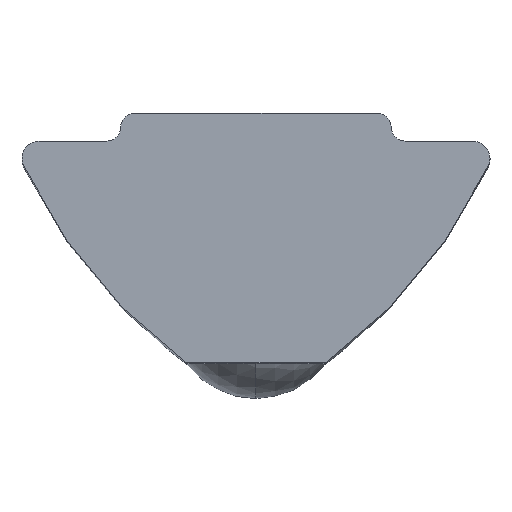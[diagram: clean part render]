
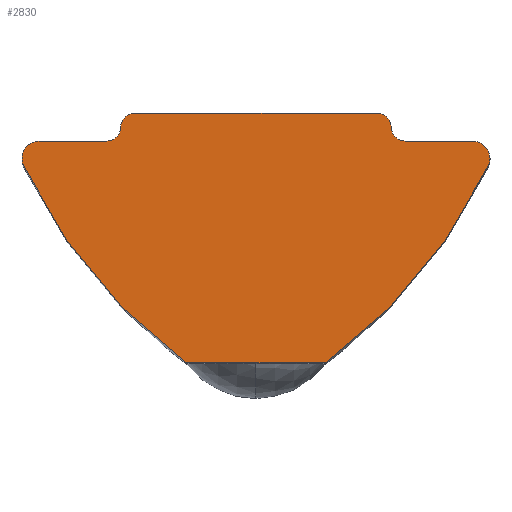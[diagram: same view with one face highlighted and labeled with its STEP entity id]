
A CAD part, top view. The second image highlights one B-rep face of the part: STEP entity #2830.
In plain terms, the highlighted planar face has unit normal (0, 0, 1).
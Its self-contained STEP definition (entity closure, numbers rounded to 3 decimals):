
#19 = DIRECTION ( 'NONE',  ( 0., 0., -1. ) ) ;
#51 = CIRCLE ( 'NONE', #2102, 0.4 ) ;
#98 = CARTESIAN_POINT ( 'NONE',  ( -4.3, -0.8, 22. ) ) ;
#109 = CARTESIAN_POINT ( 'NONE',  ( -6.25, -1.3, 22. ) ) ;
#204 = VERTEX_POINT ( 'NONE', #3266 ) ;
#316 = DIRECTION ( 'NONE',  ( -1., 0., 0. ) ) ;
#377 = CARTESIAN_POINT ( 'NONE',  ( -6.25, -0.8, 22. ) ) ;
#414 = EDGE_CURVE ( 'NONE', #1914, #204, #3514, .T. ) ;
#424 = EDGE_CURVE ( 'NONE', #3758, #2238, #1454, .T. ) ;
#425 = VERTEX_POINT ( 'NONE', #2633 ) ;
#476 = CIRCLE ( 'NONE', #2042, 15. ) ;
#477 = ORIENTED_EDGE ( 'NONE', *, *, #1144, .T. ) ;
#495 = LINE ( 'NONE', #1483, #752 ) ;
#551 = VECTOR ( 'NONE', #635, 1000. ) ;
#571 = DIRECTION ( 'NONE',  ( 1., 0., 0. ) ) ;
#624 = ORIENTED_EDGE ( 'NONE', *, *, #1953, .F. ) ;
#635 = DIRECTION ( 'NONE',  ( 1., 0., 0. ) ) ;
#639 = CARTESIAN_POINT ( 'NONE',  ( -3.5, -0.4, 22. ) ) ;
#653 = ORIENTED_EDGE ( 'NONE', *, *, #886, .T. ) ;
#677 = CARTESIAN_POINT ( 'NONE',  ( 4.3, -0.4, 22. ) ) ;
#741 = EDGE_CURVE ( 'NONE', #2438, #425, #2952, .T. ) ;
#745 = DIRECTION ( 'NONE',  ( 1., 0., 0. ) ) ;
#752 = VECTOR ( 'NONE', #2776, 1000. ) ;
#756 = DIRECTION ( 'NONE',  ( -1., 0., 0. ) ) ;
#886 = EDGE_CURVE ( 'NONE', #1765, #2565, #3743, .T. ) ;
#923 = VERTEX_POINT ( 'NONE', #1063 ) ;
#928 = ORIENTED_EDGE ( 'NONE', *, *, #1627, .T. ) ;
#968 = AXIS2_PLACEMENT_3D ( 'NONE', #3288, #1928, #1253 ) ;
#1002 = CARTESIAN_POINT ( 'NONE',  ( -4.3, -0.4, 22. ) ) ;
#1035 = ORIENTED_EDGE ( 'NONE', *, *, #3693, .T. ) ;
#1063 = CARTESIAN_POINT ( 'NONE',  ( 3.5, 0., 22. ) ) ;
#1079 = FACE_OUTER_BOUND ( 'NONE', #1732, .T. ) ;
#1088 = DIRECTION ( 'NONE',  ( 0., 0., -1. ) ) ;
#1116 = DIRECTION ( 'NONE',  ( 0., 0., 1. ) ) ;
#1144 = EDGE_CURVE ( 'NONE', #3653, #4208, #3081, .T. ) ;
#1158 = CARTESIAN_POINT ( 'NONE',  ( 6.25, -1.3, 22. ) ) ;
#1253 = DIRECTION ( 'NONE',  ( 1., 0., 0. ) ) ;
#1281 = EDGE_CURVE ( 'NONE', #1914, #1765, #51, .T. ) ;
#1318 = AXIS2_PLACEMENT_3D ( 'NONE', #639, #19, #3336 ) ;
#1408 = LINE ( 'NONE', #2766, #3086 ) ;
#1454 = CIRCLE ( 'NONE', #1686, 0.4 ) ;
#1483 = CARTESIAN_POINT ( 'NONE',  ( -6.25, -0.8, 22. ) ) ;
#1613 = CIRCLE ( 'NONE', #968, 0.4 ) ;
#1627 = EDGE_CURVE ( 'NONE', #3261, #3758, #495, .T. ) ;
#1639 = DIRECTION ( 'NONE',  ( 0., 0., -1. ) ) ;
#1686 = AXIS2_PLACEMENT_3D ( 'NONE', #677, #4325, #4306 ) ;
#1726 = DIRECTION ( 'NONE',  ( 1., 0., 0. ) ) ;
#1732 = EDGE_LOOP ( 'NONE', ( #477, #2220, #928, #2545, #4256, #3551, #3768, #2158, #653, #1959, #2694, #1035, #624 ) ) ;
#1765 = VERTEX_POINT ( 'NONE', #98 ) ;
#1810 = CARTESIAN_POINT ( 'NONE',  ( -6.25, -0.8, 22. ) ) ;
#1904 = CARTESIAN_POINT ( 'NONE',  ( 6.25, -0.8, 22. ) ) ;
#1914 = VERTEX_POINT ( 'NONE', #3670 ) ;
#1928 = DIRECTION ( 'NONE',  ( 0., 0., -1. ) ) ;
#1953 = EDGE_CURVE ( 'NONE', #3653, #3875, #476, .T. ) ;
#1959 = ORIENTED_EDGE ( 'NONE', *, *, #2128, .F. ) ;
#2006 = EDGE_CURVE ( 'NONE', #923, #2238, #1613, .T. ) ;
#2017 = LINE ( 'NONE', #3354, #551 ) ;
#2042 = AXIS2_PLACEMENT_3D ( 'NONE', #2346, #1639, #571 ) ;
#2080 = DIRECTION ( 'NONE',  ( 1., 0., 0. ) ) ;
#2102 = AXIS2_PLACEMENT_3D ( 'NONE', #1002, #1088, #756 ) ;
#2104 = DIRECTION ( 'NONE',  ( 0., 0., 1. ) ) ;
#2105 = AXIS2_PLACEMENT_3D ( 'NONE', #3065, #2387, #1726 ) ;
#2128 = EDGE_CURVE ( 'NONE', #2438, #2565, #2672, .T. ) ;
#2158 = ORIENTED_EDGE ( 'NONE', *, *, #1281, .T. ) ;
#2220 = ORIENTED_EDGE ( 'NONE', *, *, #3884, .T. ) ;
#2238 = VERTEX_POINT ( 'NONE', #3451 ) ;
#2239 = CARTESIAN_POINT ( 'NONE',  ( -6.702, -1.514, 22. ) ) ;
#2346 = CARTESIAN_POINT ( 'NONE',  ( -6.854, 4.908, 22. ) ) ;
#2387 = DIRECTION ( 'NONE',  ( 0., 0., -1. ) ) ;
#2433 = CARTESIAN_POINT ( 'NONE',  ( 6.854, 4.908, 22. ) ) ;
#2437 = PLANE ( 'NONE',  #3659 ) ;
#2438 = VERTEX_POINT ( 'NONE', #2239 ) ;
#2495 = DIRECTION ( 'NONE',  ( 1., 0., 0. ) ) ;
#2507 = CARTESIAN_POINT ( 'NONE',  ( 6.25, -1.3, 22. ) ) ;
#2530 = DIRECTION ( 'NONE',  ( 0., 0., 1. ) ) ;
#2545 = ORIENTED_EDGE ( 'NONE', *, *, #424, .T. ) ;
#2565 = VERTEX_POINT ( 'NONE', #1810 ) ;
#2578 = CARTESIAN_POINT ( 'NONE',  ( 6.75, -1.3, 22. ) ) ;
#2633 = CARTESIAN_POINT ( 'NONE',  ( -2., -7.2, 22. ) ) ;
#2672 = CIRCLE ( 'NONE', #2105, 0.5 ) ;
#2675 = CIRCLE ( 'NONE', #3161, 0.5 ) ;
#2694 = ORIENTED_EDGE ( 'NONE', *, *, #741, .T. ) ;
#2766 = CARTESIAN_POINT ( 'NONE',  ( -6.25, 0., 22. ) ) ;
#2776 = DIRECTION ( 'NONE',  ( -1., 0., 0. ) ) ;
#2801 = EDGE_CURVE ( 'NONE', #923, #204, #1408, .T. ) ;
#2830 = ADVANCED_FACE ( 'NONE', ( #1079 ), #2437, .T. ) ;
#2952 = CIRCLE ( 'NONE', #4216, 15. ) ;
#3065 = CARTESIAN_POINT ( 'NONE',  ( -6.25, -1.3, 22. ) ) ;
#3081 = CIRCLE ( 'NONE', #4071, 0.5 ) ;
#3086 = VECTOR ( 'NONE', #4105, 1000. ) ;
#3122 = DIRECTION ( 'NONE',  ( 1., 0., 0. ) ) ;
#3155 = VECTOR ( 'NONE', #316, 1000. ) ;
#3161 = AXIS2_PLACEMENT_3D ( 'NONE', #2507, #2530, #3122 ) ;
#3195 = CARTESIAN_POINT ( 'NONE',  ( 4.3, -0.8, 22. ) ) ;
#3261 = VERTEX_POINT ( 'NONE', #1904 ) ;
#3266 = CARTESIAN_POINT ( 'NONE',  ( -3.5, 0., 22. ) ) ;
#3288 = CARTESIAN_POINT ( 'NONE',  ( 3.5, -0.4, 22. ) ) ;
#3336 = DIRECTION ( 'NONE',  ( 1., 0., 0. ) ) ;
#3354 = CARTESIAN_POINT ( 'NONE',  ( -6.25, -7.2, 22. ) ) ;
#3451 = CARTESIAN_POINT ( 'NONE',  ( 3.9, -0.4, 22. ) ) ;
#3454 = CARTESIAN_POINT ( 'NONE',  ( 2., -7.2, 22. ) ) ;
#3514 = CIRCLE ( 'NONE', #1318, 0.4 ) ;
#3551 = ORIENTED_EDGE ( 'NONE', *, *, #2801, .T. ) ;
#3653 = VERTEX_POINT ( 'NONE', #4367 ) ;
#3659 = AXIS2_PLACEMENT_3D ( 'NONE', #109, #2104, #745 ) ;
#3670 = CARTESIAN_POINT ( 'NONE',  ( -3.9, -0.4, 22. ) ) ;
#3693 = EDGE_CURVE ( 'NONE', #425, #3875, #2017, .T. ) ;
#3743 = LINE ( 'NONE', #377, #3155 ) ;
#3758 = VERTEX_POINT ( 'NONE', #3195 ) ;
#3768 = ORIENTED_EDGE ( 'NONE', *, *, #414, .F. ) ;
#3873 = DIRECTION ( 'NONE',  ( 0., 0., 1. ) ) ;
#3875 = VERTEX_POINT ( 'NONE', #3454 ) ;
#3884 = EDGE_CURVE ( 'NONE', #4208, #3261, #2675, .T. ) ;
#4071 = AXIS2_PLACEMENT_3D ( 'NONE', #1158, #1116, #2495 ) ;
#4105 = DIRECTION ( 'NONE',  ( -1., 0., 0. ) ) ;
#4208 = VERTEX_POINT ( 'NONE', #2578 ) ;
#4216 = AXIS2_PLACEMENT_3D ( 'NONE', #2433, #3873, #2080 ) ;
#4256 = ORIENTED_EDGE ( 'NONE', *, *, #2006, .F. ) ;
#4306 = DIRECTION ( 'NONE',  ( -1., 0., 0. ) ) ;
#4325 = DIRECTION ( 'NONE',  ( 0., 0., -1. ) ) ;
#4367 = CARTESIAN_POINT ( 'NONE',  ( 6.702, -1.514, 22. ) ) ;
